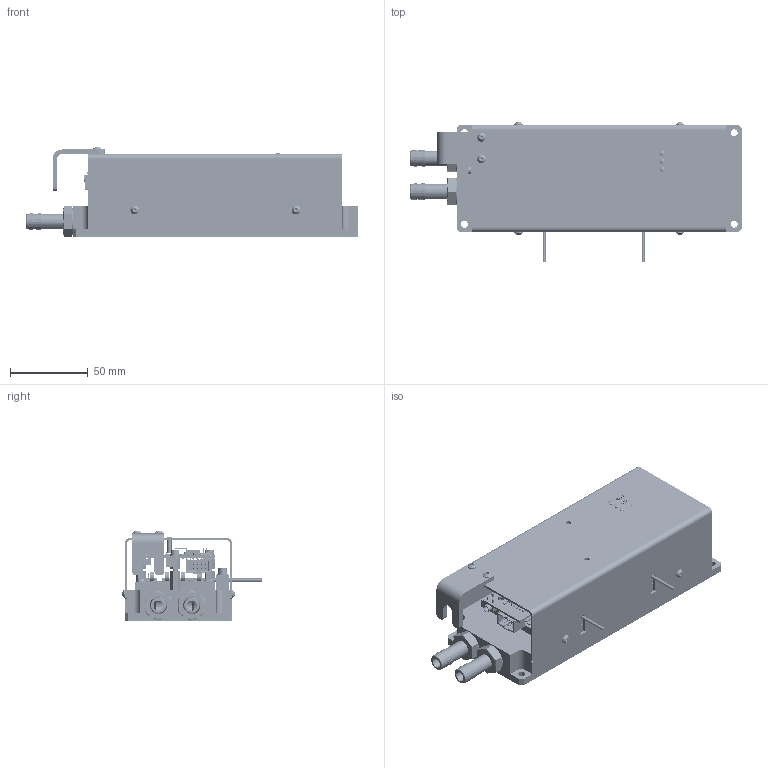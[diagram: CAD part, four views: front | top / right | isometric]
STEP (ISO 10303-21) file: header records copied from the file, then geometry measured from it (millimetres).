
FILE_DESCRIPTION (( 'STEP AP214' ), '1' );
FILE_NAME ('452.00.00.000-13 Pulse Picker HWSV-04.STEP', '2024-02-24T10:48:58', ( '' ), ( '' ), 'SwSTEP 2.0', 'SolidWorks 2018', '' );
FILE_SCHEMA (( 'AUTOMOTIVE_DESIGN' ));
Length unit declared in the file: millimetre
Products named in the file (23): 妈眚 󉱲 ISO7380 (2018); PPTF revF; Standoff M3x12; 妈眚 󉱭6 DIN912; 452.00.00.000-13 Pulse Picker HWSV-04; 妈眚 󉱭0 ISO7380 A2; 3569_B-1_4; 452.00.00.003 砑鳧罻; 3607_N-1_4-P-9; 452.00.00.002-02 砑鳧罻; 妈眚 󉱲 DIN912 (2018); 452.00.00.101-07 扻豵鵨; ﾘ琺矜 ﾌ3 DIN127 (2018); 452.00.00.004 Ýêðàí çàùèòíûé; Ãàéêà CN clinch nut M3 (2018); 452.00.00.100-07 扻豵鵨; 452.00.00.201-03 Êðûøêà_-00; PPFN revB; Standoff M3x7; LFB037CTP; 452.00.00.200-03 Êðûøêà; PPBottom revA 5mm; ﾘ琺矜 ﾌ3 DIN125 (2018)
Assembly tree (75 placements, depth 3):
  452.00.00.000-13 Pulse Picker HWSV-04
    452.00.00.100-07 扻豵鵨
      452.00.00.101-07 扻豵鵨
      3607_N-1_4-P-9  x2
      3569_B-1_4
    452.00.00.200-03 Êðûøêà
      452.00.00.201-03 Êðûøêà_-00
      LFB037CTP  x3
      Ãàéêà CN clinch nut M3 (2018)  x2
    PPBottom revA 5mm  x2
    PPFN revB
    PPTF revF
    452.00.00.002-02 砑鳧罻  x2
    452.00.00.003 砑鳧罻  x2
    452.00.00.004 Ýêðàí çàùèòíûé
    妈眚 󉱭0 ISO7380 A2  x8
    ﾘ琺矜 ﾌ3 DIN125 (2018)  x16
    ﾘ琺矜 ﾌ3 DIN127 (2018)  x8
    妈眚 󉱭6 DIN912  x4
    Standoff M3x12  x4
    Standoff M3x7  x4
    妈眚 󉱲 ISO7380 (2018)  x6
    妈眚 󉱲 DIN912 (2018)  x4
Bounding box: 214.1 x 89.78 x 58.15 mm (x, y, z)
Volume: 276206.7 mm3; surface area: 159212.5 mm2
Topology: 69 solids, 2192 shells, 10459 faces, 50971 edges, 42187 vertices
Faces by surface type: plane 7929, cylinder 1741, cone 380, bspline 377, sphere 16, torus 16
Entity records: 819015 total; most frequent: CARTESIAN_POINT 294474, ORIENTED_EDGE 72560, DIRECTION 70162, EDGE_CURVE 57022, VERTEX_POINT 47995, VECTOR 36680, LINE 36680, AXIS2_PLACEMENT_3D 16741
